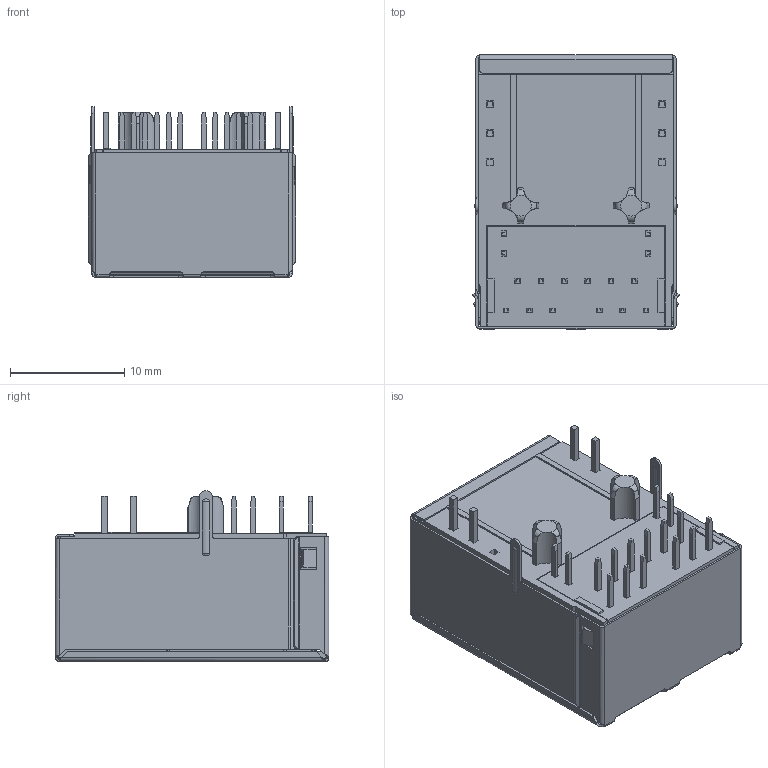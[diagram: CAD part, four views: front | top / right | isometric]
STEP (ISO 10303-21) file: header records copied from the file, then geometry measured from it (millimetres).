
FILE_DESCRIPTION((''),'2;1');
FILE_NAME('ASM0003_ASM_ASM_1_ASM','2026-01-08T11:13:19',('DGKYD'),(''),'CREO PARAMETRIC BY PTC INC, 2019010','CREO PARAMETRIC BY PTC INC, 2019010','');
FILE_SCHEMA(('CONFIG_CONTROL_DESIGN'));
Products named in the file (33): TK_14_1; PRT0002_39_1; PRT0007_1; PRT0008_1; PRT0009_1; PRT0010_1; PRT0011_1; PRT0012_1; PRT0013_1; PRT0014_1; ASM0004_ASM_ASM_1_ASM; PRT0015_1; PRT0016_1; PRT0017_1; PRT0018_1; PRT0019_1; PRT0020_1; PRT0021_1; PRT0022_1; PRT0023_1; PRT0024_1; PRT0025_1; PRT0026_1; ASM0005_ASM_ASM_1_ASM; P0E_7_1; PCB_9_1; PRT0027_1; PRT0028_1; KXPCB_6_1; PRT0038_1; PRT0039_1; ZT_11_1; ASM0003_ASM_ASM_1_ASM
Assembly tree (35 placements, depth 3):
  ASM0003_ASM_ASM_1_ASM
    TK_14_1
    PRT0002_39_1
    ASM0004_ASM_ASM_1_ASM
      PRT0007_1
      PRT0008_1
      PRT0009_1
      PRT0010_1
      PRT0011_1
      PRT0012_1
      PRT0013_1
      PRT0014_1
    ASM0005_ASM_ASM_1_ASM
      PRT0015_1
      PRT0016_1
      PRT0017_1
      PRT0018_1
      PRT0019_1
      PRT0020_1
      PRT0021_1
      PRT0022_1
      PRT0023_1
      PRT0024_1
      PRT0025_1
      PRT0026_1
    P0E_7_1  x4
    PCB_9_1
    PRT0027_1
    PRT0028_1
    KXPCB_6_1
    PRT0038_1
    PRT0039_1
    ZT_11_1
Bounding box: 18.13 x 23.96 x 14.95 mm (x, y, z)
Volume: 3052.8 mm3; surface area: 9889.8 mm2
Topology: 33 solids, 35 shells, 3268 faces, 9263 edges, 6084 vertices
Faces by surface type: plane 2180, cylinder 1048, bspline 12, torus 12, sphere 8, cone 8
Entity records: 99312 total; most frequent: CARTESIAN_POINT 18223, ORIENTED_EDGE 17070, DIRECTION 16557, EDGE_CURVE 8535, VECTOR 6481, LINE 6481, VERTEX_POINT 5604, AXIS2_PLACEMENT_3D 5038
